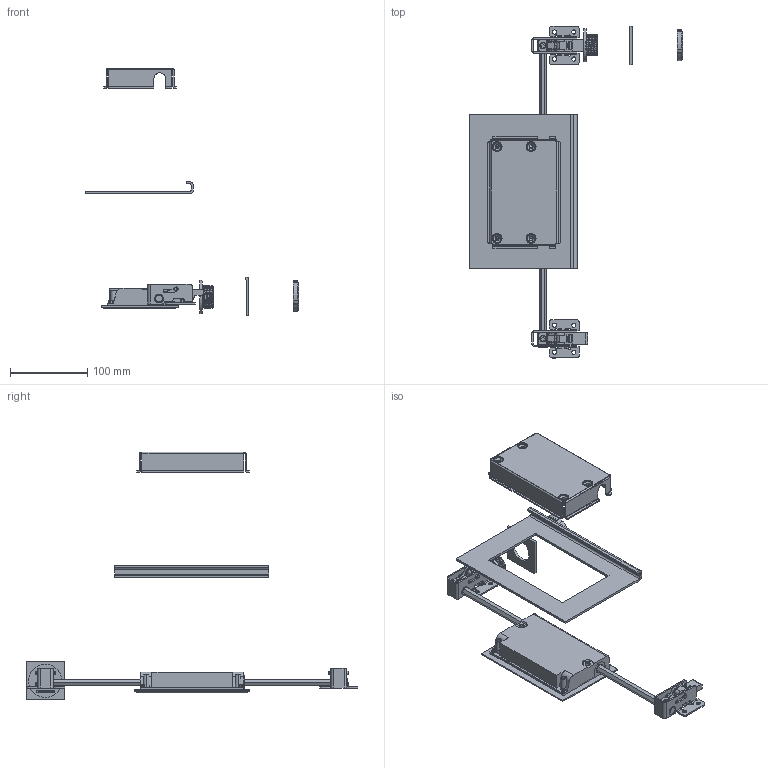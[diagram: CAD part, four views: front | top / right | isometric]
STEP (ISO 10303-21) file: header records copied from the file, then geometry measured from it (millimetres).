
FILE_DESCRIPTION (( 'STEP AP203' ), '1' );
FILE_NAME ('SK1-100.SK1-300假蚾尨砩芞.STEP', '2018-05-25T07:09:20', ( 'admin' ), ( 'Microsoft' ), 'SwSTEP 2.0', 'SolidWorks 2015', '' );
FILE_SCHEMA (( 'CONFIG_CONTROL_DESIGN' ));
Length unit declared in the file: millimetre
Products named in the file (19): SK1-100-3藷啣; SK1-100_M3_45_1; SK1-300; SK1-100_M3-86; SK1-300綴裔; SK1-100_M3_85; SK1-200K_鞠晚倛蟀裝; SK1-300藷啣; SK1-100_M3-96; SK1-100_M3_97; SK1-100.SK1-300假蚾尨砩芞; SK1-100_M302350201; SK1-100_M3_47; SK1-100; SK1-100_M3_45_2; SK1-100-3; SK1-100_M3_45_3; M30鼠備酗僅7蹟譫; SK1-100_M30467915
Assembly tree (20 placements, depth 3):
  SK1-100.SK1-300假蚾尨砩芞
    SK1-200K_鞠晚倛蟀裝
    SK1-100  x2
      SK1-100_M3_97
      SK1-100_M3_47
      SK1-100_M3_45_2
      SK1-100_M3_45_3
      SK1-100_M30467915
      SK1-100_M3_45_1
      SK1-100_M3-86
      SK1-100_M3_85
      SK1-100_M3-96
      SK1-100_M302350201
    SK1-100-3
    M30鼠備酗僅7蹟譫
    SK1-100-3藷啣
    SK1-300
    SK1-300綴裔
    SK1-300藷啣
Bounding box: 276.44 x 429.93 x 320.98 mm (x, y, z)
Volume: 340544.7 mm3; surface area: 212499.4 mm2
Topology: 27 solids, 31 shells, 1993 faces, 5384 edges, 3475 vertices
Faces by surface type: plane 1193, cylinder 507, bspline 181, cone 80, torus 28, sphere 4
Entity records: 50514 total; most frequent: CARTESIAN_POINT 17290, ORIENTED_EDGE 6846, DIRECTION 5937, EDGE_CURVE 3425, LINE 2265, VECTOR 2265, VERTEX_POINT 2220, AXIS2_PLACEMENT_3D 1836
